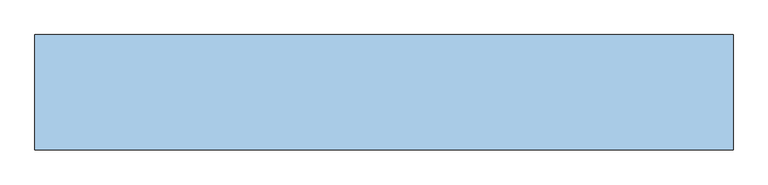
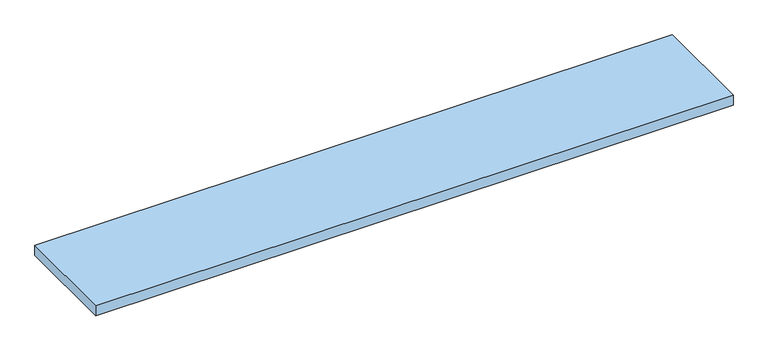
"""IFC4 building model written with IfcOpenShell, lengths in millimetres: window geometry, AC_Подоконник : ПВХ."""

from ifc_helpers import new_model, si_unit, origin, origin_with_axes, place, context, project, spatial, polyline, outline, extrude, source, transform, mapped, element, save


def window_e88b76e3(model_context):
    return source(origin(), model_context, "Body", "SweptSolid", [
        extrude(outline(polyline([(605.0, 0.0), (605.0, -200.0), (-605.0, -200.0), (-605.0, 0.0), (605.0, 0.0)])), origin_with_axes(), (0.0, 0.0, 1.0), 20.0),
    ])


if __name__ == "__main__":
    model = new_model("IFC4")
    model_context = context("Model", 3, world=origin())
    ifc_project = project(units=[si_unit("LENGTHUNIT", "METRE", prefix="MILLI")], contexts=[model_context])
    site = spatial("IfcSite", under=ifc_project)
    building = spatial("IfcBuilding", under=site)
    placement = place(None, origin())
    window_shape = window_e88b76e3(model_context)
    element("IfcWindow", 1, ObjectType="AC_Подоконник : ПВХ", at=placement, inside=building, context=model_context, shape_type="MappedRepresentation", body=[
        mapped(window_shape, transform((0.0, 0.0, 0.0), x_axis=(1.0, 0.0, 0.0), y_axis=(0.0, 1.0, 0.0), z_axis=(0.0, 0.0, 1.0))),
    ])
    save(model, "model.ifc")
